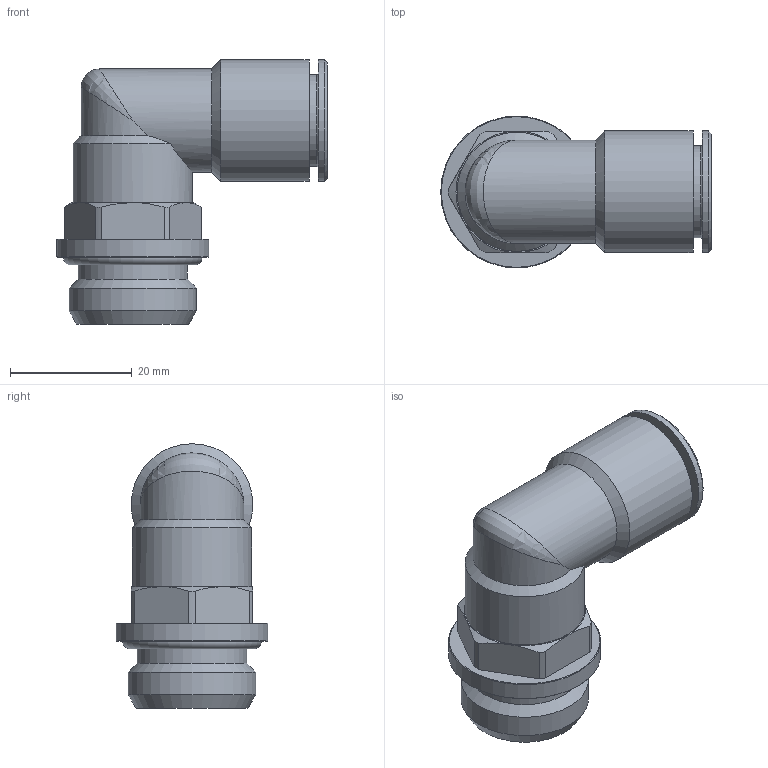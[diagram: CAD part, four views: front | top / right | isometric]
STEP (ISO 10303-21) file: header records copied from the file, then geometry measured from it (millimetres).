
FILE_DESCRIPTION(/* description */ (''),/* implementation_level */ '2;1');
FILE_NAME(/* name */ 'V202214_IPSO022_14_G12_07.09.16',/* time_stamp */ '2016-09-07T11:16:12+02:00',/* author */ (''),/* organization */ (''),/* preprocessor_version */ 'ST-DEVELOPER v16.5',/* originating_system */ 'HiCAD 2016 2101.0 Build 254',/* authorisation */ '');
FILE_SCHEMA (('AUTOMOTIVE_DESIGN { 1 0 10303 214 1 1 1 1 }'));
Length unit declared in the file: millimetre
Products named in the file (5): Root; OR 17.12X2.62; DR14-5; 214608_Gew._12_1-2; R202213
Assembly tree (4 placements, depth 2):
  Root
    OR 17.12X2.62
    DR14-5
    214608_Gew._12_1-2
    R202213
Bounding box: 44.5 x 25 x 43.5 mm (x, y, z)
Volume: 9508 mm3; surface area: 10526.5 mm2
Topology: 4 solids, 4 shells, 80 faces, 177 edges, 108 vertices
Faces by surface type: cylinder 28, plane 22, cone 22, torus 6, sphere 1, bspline 1
Full cylindrical faces by diameter (mm): 11 x1, 12 x1, 14.15 x1, 14.3 x1, 14.5 x1, 15.1 x1, 15.2 x1, 15.8 x2, 16.2 x1, 16.5 x1, 17 x3, 18 x1, 19.6 x1, 20 x2, 20.955 x1, 25 x1
Entity records: 4133 total; most frequent: CARTESIAN_POINT 1263, DIRECTION 372, PRESENTATION_STYLE_ASSIGNMENT 246, OVER_RIDING_STYLED_ITEM 242, COLOUR_RGB 240, DRAUGHTING_PRE_DEFINED_CURVE_FONT 236, CURVE_STYLE 236, ORIENTED_EDGE 236
